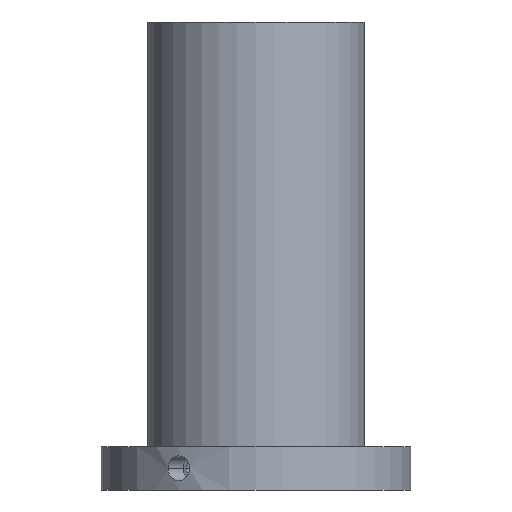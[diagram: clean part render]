
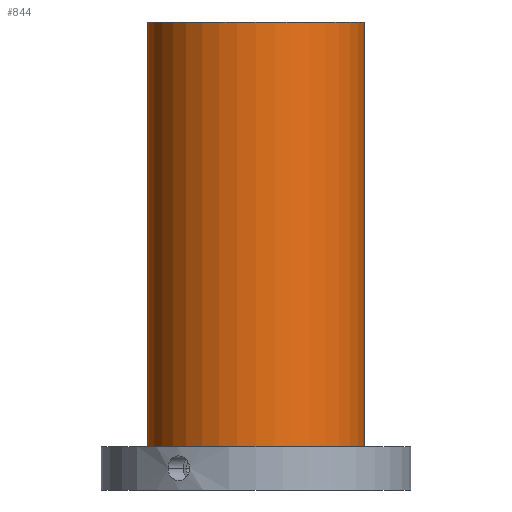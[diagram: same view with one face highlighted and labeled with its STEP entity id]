
A CAD part, front view. The second image highlights one B-rep face of the part: STEP entity #844.
In plain terms, the highlighted cylindrical face has radius 35 mm (diameter 70 mm), a partial arc.
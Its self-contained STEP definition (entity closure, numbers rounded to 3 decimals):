
#106=CARTESIAN_POINT('',(0.,0.,151.));
#107=DIRECTION('',(0.,0.,1.));
#108=DIRECTION('',(-1.,0.,0.));
#109=AXIS2_PLACEMENT_3D('',#106,#107,#108);
#141=CARTESIAN_POINT('',(0.,0.,14.));
#142=DIRECTION('',(0.,0.,-1.));
#143=DIRECTION('',(1.,0.,0.));
#144=AXIS2_PLACEMENT_3D('',#141,#142,#143);
#341=DIRECTION('',(0.,0.,-1.));
#342=VECTOR('',#341,137.);
#343=CARTESIAN_POINT('',(-35.,0.,151.));
#344=LINE('',#343,#342);
#345=DIRECTION('',(0.,0.,-1.));
#346=VECTOR('',#345,137.);
#347=CARTESIAN_POINT('',(35.,0.,151.));
#348=LINE('',#347,#346);
#413=CARTESIAN_POINT('',(-35.,0.,14.));
#414=CARTESIAN_POINT('',(35.,0.,14.));
#415=VERTEX_POINT('',#413);
#416=VERTEX_POINT('',#414);
#501=CARTESIAN_POINT('',(35.,0.,151.));
#502=VERTEX_POINT('',#501);
#503=CARTESIAN_POINT('',(-35.,0.,151.));
#504=VERTEX_POINT('',#503);
#833=CARTESIAN_POINT('',(0.,0.,171.));
#834=DIRECTION('',(0.,0.,-1.));
#835=DIRECTION('',(-1.,0.,0.));
#836=AXIS2_PLACEMENT_3D('',#833,#834,#835);
#837=CYLINDRICAL_SURFACE('',#836,35.);
#838=ORIENTED_EDGE('',*,*,#653,.T.);
#839=ORIENTED_EDGE('',*,*,#632,.F.);
#840=ORIENTED_EDGE('',*,*,#612,.T.);
#841=ORIENTED_EDGE('',*,*,#629,.T.);
#842=EDGE_LOOP('',(#838,#839,#840,#841));
#843=FACE_OUTER_BOUND('',#842,.F.);
#844=ADVANCED_FACE('',(#843),#837,.T.);
#110=CIRCLE('',#109,35.);
#145=CIRCLE('',#144,35.);
#612=EDGE_CURVE('',#504,#502,#110,.T.);
#629=EDGE_CURVE('',#502,#416,#348,.T.);
#632=EDGE_CURVE('',#504,#415,#344,.T.);
#653=EDGE_CURVE('',#416,#415,#145,.T.);
